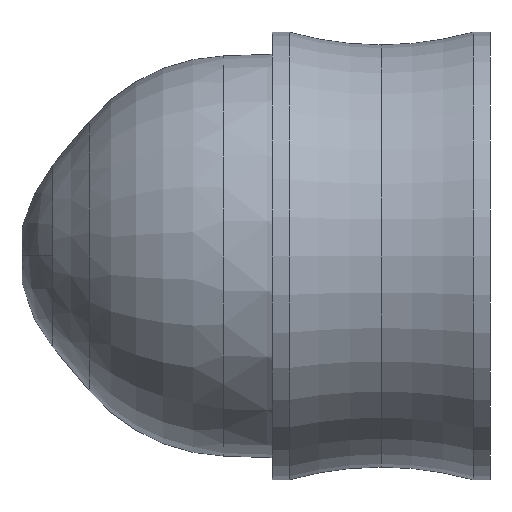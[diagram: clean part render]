
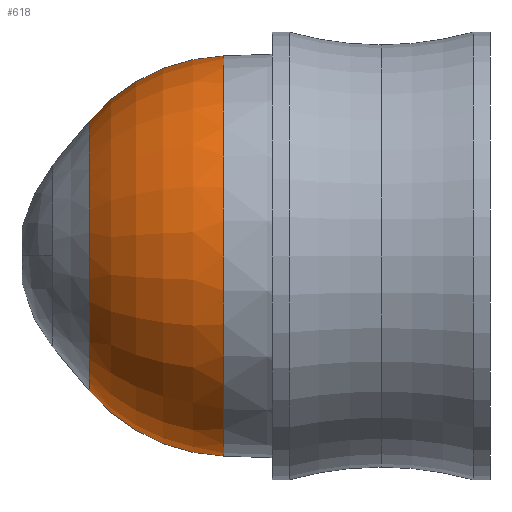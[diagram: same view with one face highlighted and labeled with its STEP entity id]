
A CAD part, front view. The second image highlights one B-rep face of the part: STEP entity #618.
In plain terms, the highlighted toroidal (fillet/blend) face has major radius 0.574 mm and minor radius 6.5 mm.
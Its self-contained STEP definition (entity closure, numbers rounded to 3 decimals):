
#4 = TOROIDAL_SURFACE ( 'NONE', #1857, 0.574, 6.5 ) ;
#136 = EDGE_CURVE ( 'NONE', #1336, #1272, #438, .T. ) ;
#171 = EDGE_CURVE ( 'NONE', #859, #995, #328, .T. ) ;
#226 = ORIENTED_EDGE ( 'NONE', *, *, #136, .F. ) ;
#256 = ORIENTED_EDGE ( 'NONE', *, *, #171, .T. ) ;
#328 = CIRCLE ( 'NONE', #697, 6.5 ) ;
#329 = EDGE_CURVE ( 'NONE', #1272, #995, #1051, .T. ) ;
#333 = EDGE_LOOP ( 'NONE', ( #226, #1648, #256, #1581 ) ) ;
#404 = DIRECTION ( 'NONE',  ( 0., 1., 0. ) ) ;
#416 = DIRECTION ( 'NONE',  ( 0., 0., -1. ) ) ;
#420 = CARTESIAN_POINT ( 'NONE',  ( -9.19, 0., 0. ) ) ;
#427 = CARTESIAN_POINT ( 'NONE',  ( -9.417, 0., 7.07 ) ) ;
#431 = DIRECTION ( 'NONE',  ( 1., 0., 0. ) ) ;
#438 = CIRCLE ( 'NONE', #1575, 6.5 ) ;
#551 = CARTESIAN_POINT ( 'NONE',  ( -14.17, 0., 0. ) ) ;
#570 = CARTESIAN_POINT ( 'NONE',  ( -9.19, 0., -0.574 ) ) ;
#592 = DIRECTION ( 'NONE',  ( 0., 0., -1. ) ) ;
#618 = ADVANCED_FACE ( 'NONE', ( #1968 ), #4, .T. ) ;
#697 = AXIS2_PLACEMENT_3D ( 'NONE', #570, #1822, #416 ) ;
#797 = CIRCLE ( 'NONE', #1787, 4.752 ) ;
#830 = DIRECTION ( 'NONE',  ( 1., 0., 0. ) ) ;
#859 = VERTEX_POINT ( 'NONE', #1708 ) ;
#867 = DIRECTION ( 'NONE',  ( 0., 0., -1. ) ) ;
#881 = DIRECTION ( 'NONE',  ( 1., 0., 0. ) ) ;
#995 = VERTEX_POINT ( 'NONE', #1920 ) ;
#1051 = CIRCLE ( 'NONE', #1400, 7.07 ) ;
#1156 = DIRECTION ( 'NONE',  ( 0., 0., -1. ) ) ;
#1256 = CARTESIAN_POINT ( 'NONE',  ( -14.17, 0., 4.752 ) ) ;
#1272 = VERTEX_POINT ( 'NONE', #427 ) ;
#1336 = VERTEX_POINT ( 'NONE', #1256 ) ;
#1358 = DIRECTION ( 'NONE',  ( 0., 0., 1. ) ) ;
#1400 = AXIS2_PLACEMENT_3D ( 'NONE', #2008, #431, #592 ) ;
#1511 = CARTESIAN_POINT ( 'NONE',  ( -9.19, 0., 0.574 ) ) ;
#1537 = EDGE_CURVE ( 'NONE', #1336, #859, #797, .T. ) ;
#1575 = AXIS2_PLACEMENT_3D ( 'NONE', #1511, #404, #1358 ) ;
#1581 = ORIENTED_EDGE ( 'NONE', *, *, #329, .F. ) ;
#1648 = ORIENTED_EDGE ( 'NONE', *, *, #1537, .T. ) ;
#1708 = CARTESIAN_POINT ( 'NONE',  ( -14.17, 0., -4.752 ) ) ;
#1787 = AXIS2_PLACEMENT_3D ( 'NONE', #551, #830, #1156 ) ;
#1822 = DIRECTION ( 'NONE',  ( 0., -1., 0. ) ) ;
#1857 = AXIS2_PLACEMENT_3D ( 'NONE', #420, #881, #867 ) ;
#1920 = CARTESIAN_POINT ( 'NONE',  ( -9.417, 0., -7.07 ) ) ;
#1968 = FACE_OUTER_BOUND ( 'NONE', #333, .T. ) ;
#2008 = CARTESIAN_POINT ( 'NONE',  ( -9.417, 0., 0. ) ) ;
